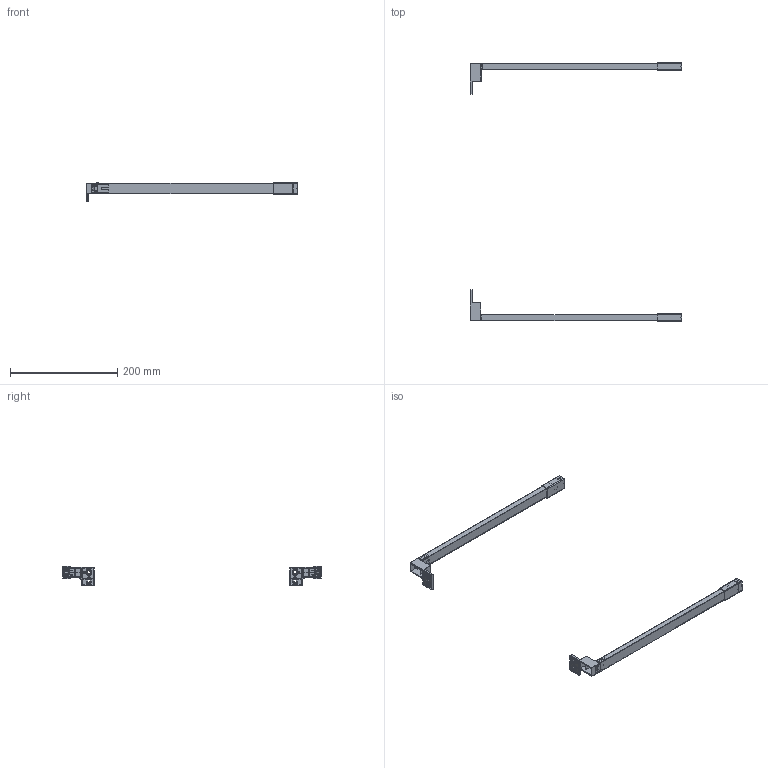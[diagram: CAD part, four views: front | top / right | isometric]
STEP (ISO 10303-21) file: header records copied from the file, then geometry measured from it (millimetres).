
FILE_DESCRIPTION(/* description */ (''),/* implementation_level */ '2;1');
FILE_NAME(/* name */ 'D:\$Workingspace\Designs\Katalog\Cadsoft\GTV Prowadnice\GTV 3D AXISPRO\Model\PB-AXISPRO-RELKW\PB-AXISPRO-RELKW-400.stp',/* time_stamp */ '2019-12-10T12:37:48+01:00',/* author */ ('tomaszw'),/* organization */ (''),/* preprocessor_version */ 'ST-DEVELOPER v17.2',/* originating_system */ 'Autodesk Inventor 2019',/* authorisation */ '');
FILE_SCHEMA (('AUTOMOTIVE_DESIGN { 1 0 10303 214 3 1 1 }'));
Products named in the file (12): RELING (PB-AXISPRO-RELKW)-01; reling L-01; Ö±°å³é¹Ì¶¨Ö
§¼Ü; reling-01; Ö±°å³é¹Ì¶¨Ö
§¼Ü_R; Ö±°å³é»î¶¯¿
é; Ö±°å³é½ºÌ×; Ö±°å³éÁ¬½Ó¿
é; CBZ·½¸ËÁ¬½Ó¼þ_
L; CBZ·½¸Ë-±³°åÁ¬
½Ó¼þ_L; CBZ·½¸ËÁ¬½Ó¼þ_
R; CBZ·½¸Ë-±³°åÁ¬
½Ó¼þ_R
Assembly tree (14 placements, depth 2):
  RELING (PB-AXISPRO-RELKW)-01
    reling L-01
    Ö±°å³é½ºÌ×  x2
    Ö±°å³é¹Ì¶¨Ö
§¼Ü
    Ö±°å³é»î¶¯¿
é  x2
    Ö±°å³éÁ¬½Ó¿
é  x2
    reling-01
    Ö±°å³é¹Ì¶¨Ö
§¼Ü_R
    CBZ·½¸ËÁ¬½Ó¼þ_
L
    CBZ·½¸Ë-±³°åÁ¬
½Ó¼þ_L
    CBZ·½¸ËÁ¬½Ó¼þ_
R
    CBZ·½¸Ë-±³°åÁ¬
½Ó¼þ_R
Bounding box: 395.37 x 483.35 x 35.9 mm (x, y, z)
Volume: 75877.1 mm3; surface area: 129156.3 mm2
Topology: 14 solids, 14 shells, 3788 faces, 9283 edges, 5206 vertices
Faces by surface type: cylinder 1612, plane 1022, torus 542, sphere 376, bspline 226, cone 10
Full cylindrical faces by diameter (mm): 4.5 x2, 8.4 x2
Entity records: 93484 total; most frequent: CARTESIAN_POINT 21306, DIRECTION 16166, ORIENTED_EDGE 14596, EDGE_CURVE 7298, AXIS2_PLACEMENT_3D 6242, VERTEX_POINT 4279, LINE 3682, VECTOR 3682
